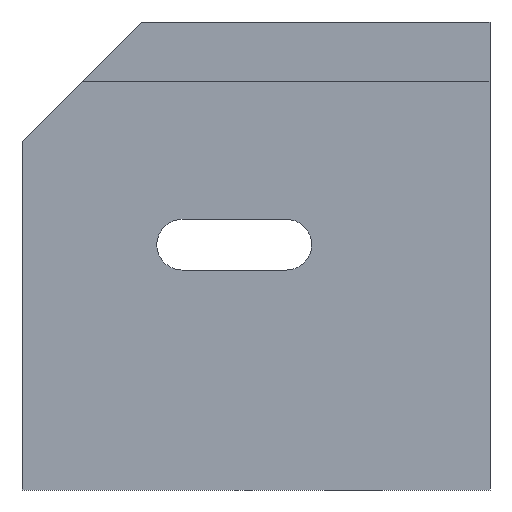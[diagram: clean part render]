
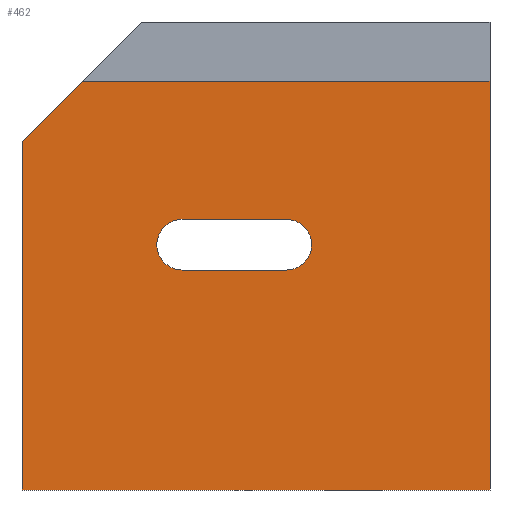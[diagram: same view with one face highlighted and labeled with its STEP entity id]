
A CAD part, front view. The second image highlights one B-rep face of the part: STEP entity #462.
In plain terms, the highlighted planar face has unit normal (0, -1, 0).
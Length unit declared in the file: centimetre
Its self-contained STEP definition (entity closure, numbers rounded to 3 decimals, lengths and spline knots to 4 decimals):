
#12 = AXIS2_PLACEMENT_3D ( 'NONE', #484, #787, #724 ) ;
#37 = CARTESIAN_POINT ( 'NONE',  ( 0., 0., 745.175 ) ) ;
#40 = LINE ( 'NONE', #436, #118 ) ;
#58 = CIRCLE ( 'NONE', #537, 54.0897 ) ;
#72 = VECTOR ( 'NONE', #438, 100. ) ;
#90 = VERTEX_POINT ( 'NONE', #125 ) ;
#91 = DIRECTION ( 'NONE',  ( 0., 1., 0. ) ) ;
#118 = VECTOR ( 'NONE', #300, 100. ) ;
#125 = CARTESIAN_POINT ( 'NONE',  ( 1000., 0., 0. ) ) ;
#132 = AXIS2_PLACEMENT_3D ( 'NONE', #405, #91, #156 ) ;
#134 = CARTESIAN_POINT ( 'NONE',  ( 0., 0., 0. ) ) ;
#140 = VECTOR ( 'NONE', #774, 100. ) ;
#152 = EDGE_LOOP ( 'NONE', ( #741, #476, #625, #489 ) ) ;
#156 = DIRECTION ( 'NONE',  ( 0., 0., -1. ) ) ;
#163 = ORIENTED_EDGE ( 'NONE', *, *, #524, .T. ) ;
#173 = VECTOR ( 'NONE', #515, 100. ) ;
#182 = LINE ( 'NONE', #235, #630 ) ;
#183 = CARTESIAN_POINT ( 'NONE',  ( 564.9162, 0., 470.0393 ) ) ;
#186 = VERTEX_POINT ( 'NONE', #183 ) ;
#192 = CARTESIAN_POINT ( 'NONE',  ( 564.9162, 0., 578.2188 ) ) ;
#223 = FACE_BOUND ( 'NONE', #152, .T. ) ;
#232 = DIRECTION ( 'NONE',  ( 0., 1., 0. ) ) ;
#235 = CARTESIAN_POINT ( 'NONE',  ( 0., 0., 1000. ) ) ;
#246 = CARTESIAN_POINT ( 'NONE',  ( 342.067, 0., 578.2188 ) ) ;
#252 = CARTESIAN_POINT ( 'NONE',  ( 1000., 0., 1000. ) ) ;
#263 = CARTESIAN_POINT ( 'NONE',  ( 128.324, 0., 873.4991 ) ) ;
#276 = CIRCLE ( 'NONE', #132, 54.0897 ) ;
#280 = VERTEX_POINT ( 'NONE', #263 ) ;
#300 = DIRECTION ( 'NONE',  ( 1., 0., 0. ) ) ;
#302 = EDGE_CURVE ( 'NONE', #653, #90, #775, .T. ) ;
#329 = VECTOR ( 'NONE', #835, 100. ) ;
#352 = EDGE_CURVE ( 'NONE', #280, #746, #469, .T. ) ;
#367 = EDGE_CURVE ( 'NONE', #280, #795, #386, .T. ) ;
#386 = LINE ( 'NONE', #589, #329 ) ;
#397 = VECTOR ( 'NONE', #711, 100. ) ;
#405 = CARTESIAN_POINT ( 'NONE',  ( 342.067, 0., 524.129 ) ) ;
#406 = ORIENTED_EDGE ( 'NONE', *, *, #302, .T. ) ;
#412 = EDGE_CURVE ( 'NONE', #798, #186, #58, .T. ) ;
#426 = ORIENTED_EDGE ( 'NONE', *, *, #367, .F. ) ;
#434 = EDGE_CURVE ( 'NONE', #493, #663, #276, .T. ) ;
#436 = CARTESIAN_POINT ( 'NONE',  ( 564.9162, 0., 578.2188 ) ) ;
#438 = DIRECTION ( 'NONE',  ( 0., 0., -1. ) ) ;
#442 = CARTESIAN_POINT ( 'NONE',  ( 342.067, 0., 470.0393 ) ) ;
#446 = ORIENTED_EDGE ( 'NONE', *, *, #759, .F. ) ;
#462 = ADVANCED_FACE ( 'NONE', ( #223, #540 ), #541, .F. ) ;
#469 = LINE ( 'NONE', #717, #140 ) ;
#474 = DIRECTION ( 'NONE',  ( 0., 0., -1. ) ) ;
#476 = ORIENTED_EDGE ( 'NONE', *, *, #434, .T. ) ;
#484 = CARTESIAN_POINT ( 'NONE',  ( 0., 0., 1000. ) ) ;
#489 = ORIENTED_EDGE ( 'NONE', *, *, #412, .T. ) ;
#493 = VERTEX_POINT ( 'NONE', #804 ) ;
#515 = DIRECTION ( 'NONE',  ( -1., 0., 0. ) ) ;
#518 = EDGE_CURVE ( 'NONE', #663, #798, #40, .T. ) ;
#524 = EDGE_CURVE ( 'NONE', #746, #653, #182, .T. ) ;
#537 = AXIS2_PLACEMENT_3D ( 'NONE', #733, #232, #474 ) ;
#540 = FACE_OUTER_BOUND ( 'NONE', #561, .T. ) ;
#541 = PLANE ( 'NONE',  #12 ) ;
#561 = EDGE_LOOP ( 'NONE', ( #446, #426, #660, #163, #406 ) ) ;
#589 = CARTESIAN_POINT ( 'NONE',  ( 104.9613, 0., 873.4991 ) ) ;
#621 = DIRECTION ( 'NONE',  ( 0., 0., -1. ) ) ;
#625 = ORIENTED_EDGE ( 'NONE', *, *, #518, .T. ) ;
#630 = VECTOR ( 'NONE', #621, 100. ) ;
#653 = VERTEX_POINT ( 'NONE', #745 ) ;
#660 = ORIENTED_EDGE ( 'NONE', *, *, #352, .T. ) ;
#663 = VERTEX_POINT ( 'NONE', #246 ) ;
#699 = LINE ( 'NONE', #442, #173 ) ;
#711 = DIRECTION ( 'NONE',  ( 1., 0., 0. ) ) ;
#714 = EDGE_CURVE ( 'NONE', #186, #493, #699, .T. ) ;
#717 = CARTESIAN_POINT ( 'NONE',  ( 254.825, 0., 1000. ) ) ;
#724 = DIRECTION ( 'NONE',  ( 0., 0., 1. ) ) ;
#733 = CARTESIAN_POINT ( 'NONE',  ( 564.9162, 0., 524.129 ) ) ;
#741 = ORIENTED_EDGE ( 'NONE', *, *, #714, .T. ) ;
#745 = CARTESIAN_POINT ( 'NONE',  ( 0., 0., 0. ) ) ;
#746 = VERTEX_POINT ( 'NONE', #37 ) ;
#755 = CARTESIAN_POINT ( 'NONE',  ( 1000., 0., 873.4991 ) ) ;
#759 = EDGE_CURVE ( 'NONE', #795, #90, #762, .T. ) ;
#762 = LINE ( 'NONE', #252, #72 ) ;
#774 = DIRECTION ( 'NONE',  ( -0.707, 0., -0.707 ) ) ;
#775 = LINE ( 'NONE', #134, #397 ) ;
#787 = DIRECTION ( 'NONE',  ( 0., 1., 0. ) ) ;
#795 = VERTEX_POINT ( 'NONE', #755 ) ;
#798 = VERTEX_POINT ( 'NONE', #192 ) ;
#804 = CARTESIAN_POINT ( 'NONE',  ( 342.067, 0., 470.0393 ) ) ;
#835 = DIRECTION ( 'NONE',  ( 1., 0., 0. ) ) ;
